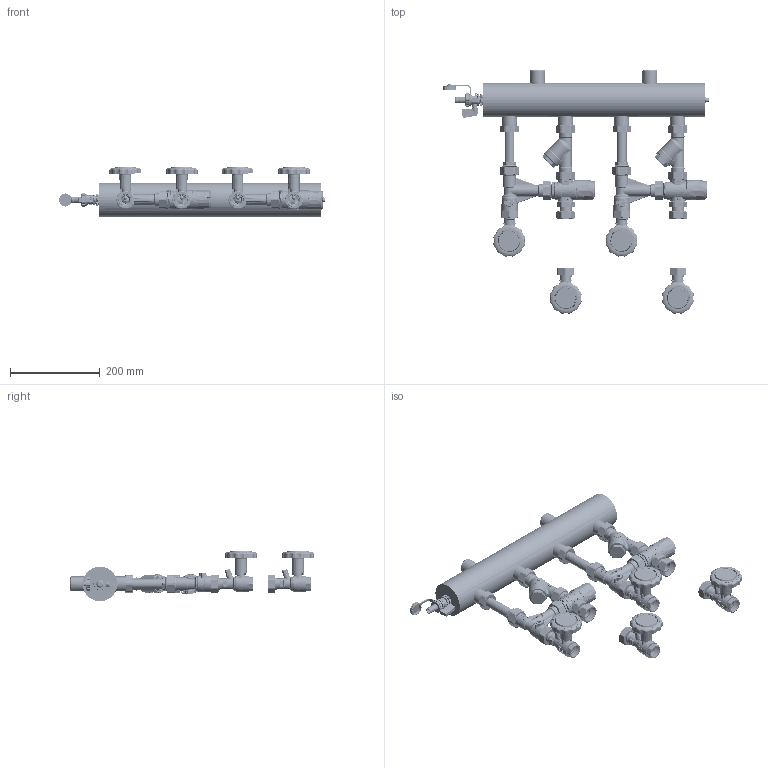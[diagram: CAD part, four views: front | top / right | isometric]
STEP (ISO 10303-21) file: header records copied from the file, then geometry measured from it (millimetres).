
FILE_DESCRIPTION (( 'STEP AP214' ), '1' );
FILE_NAME ('9091120.STEP', '2022-10-14T11:05:48', ( '' ), ( '' ), 'SwSTEP 2.0', 'SolidWorks 2022', '' );
FILE_SCHEMA (( 'AUTOMOTIVE_DESIGN' ));
Length unit declared in the file: millimetre
Products named in the file (63): 41181_1; Dado-Fissaggio-Maniglia-1870-A-31505091; T_LLE; 42407; Anello-Elastico-1460-Ř28x2-53105460_2; 70405017-1963-1DFx34F-GIALLO-MAN-NERA_ASSIEME; 90405017-1963-1DFx34F-GIALLO-MAN-NERA_ASSIEME; Tubo-22-1DFx1M; KFE_HAHN G1_2 PTFE; Corpo-1963-DN20-Lavorato-30105655; 67081_1; O-ring-2018-EPDM 70 N01C; Asta-840-12-Unificata-30505300; Guarnizione-840-34-ptfe-52705005; pokretlo na termometr; DECKEL0G304; Tubo-22; 10405027-1963-1DFx34F-Maniglia-Termometro-Nera_TERMOMETRO_1; Grano-M4x6-52110003; Misclatrice-Termostatica-ATM561-C-Lavoro-50105251_1; Sfera-300-34-Lavorata-33208005_1; MANOPOLA_1; Raccordo-840-34-Lavorato-31605312_Sabbiata; Raccordo-840-34-Lavorato-31605312_Sabbiata_1; odpowietrznik_reczny; 67082_ATM361_1; MUTTER G3_4; 1961-S-Portasonda-_X2_0158_X0_6-Lavorato-30805032; 9091120; GRIFF; Sprzeglo; Anello-Elastico-553-S-1-53105253; Sfera-300-34-Lavorata-33208005; 67079_1; GEWINDEDICHTRING G1_2; Corpo-Filtro-Lavorato_2; 21780_1; maniglia-1870-1871_Nera; Corpo-Valvola-DN20-Lavorato_1; HALTELASCHE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
Assembly tree (83 placements, depth 6):
  9091120
    Sprzeglo
    Misclatrice-Termostatica-ATM561-C-Lavoro-50105251_1  x2
      41181_1
      67082_ATM361_1
      21780_1
      67079_1
      67081_1
      MANOPOLA_1
    Assieme-Filtro1  x2
      Corpo-Filtro-Lavorato_2
      Anello-Elastico-1460-Ř28x2-53105460_2
      Dado-1460- 1-Lavorato-31505460_2
      3438-Tappo Filtro Lavorato_2
      Filtro-1410-114-53505410_2
      O-ring-4125-PE32-52905023_2
    42407
      KFE_HAHN G1_2 PTFE
        SPINDEL
        GEWINDEDICHTRING G1_2
        GEWINDERING G1_2
        GRIFF
        T_LLE
        MUTTER G3_4
        GEH_USE
        HALTELASCHE
        DECKEL G3_4
        DECKEL0G304
          FLACHDICHTUNG
    odpowietrznik_reczny
    Assieme-Valvola-Tee-Check_ASSIEME_1  x2
      Corpo-Valvola-DN20-Lavorato_1
      Sfera-300-34-Lavorata-33208005_1
      Guarnizione-840-34-ptfe-52705005_1
      Raccordo-840-34-Lavorato-31605312_Sabbiata_1
      Dado-1460- 1-Lavorato-31505460_2
      Anello-Elastico-1460-Ř28x2-53105460_2
      Check-dn25-HT-con-alette_1
    M1605404-3404-1x1-Prolunga-Montata_1  x2
      3404-Prolunga-1Fx1DF-Lavorata-L1605404_1
      Anello-Elastico-553-S-1-53105253_Per assemblaggio_1
      Dado-553-S-1-Lavorato-31505553_1
    pokretlo na termometr  x4
    10405027-1963-1DFx34F-Maniglia-Termometro-Nera_TERMOMETRO_1  x4
      70405017-1963-1DFx34F-GIALLO-MAN-NERA_ASSIEME
        90405017-1963-1DFx34F-GIALLO-MAN-NERA_ASSIEME
          20405011-1963-34-GIALLO_ASSIEME
            Corpo-1963-DN20-Lavorato-30105655
            Sfera-300-34-Lavorata-33208005
            Guarnizione-840-34-ptfe-52705005  x2
            Asta-840-12-Unificata-30505300
            O-ring-2018-EPDM 70 N01C  x2
            Raccordo-840-34-Lavorato-31605312_Sabbiata
          maniglia-1870-1871_Nera
          Dado-Fissaggio-Maniglia-1870-A-31505091
          Inserto-Maniglia-1870-52005071
          Grano-M4x6-52110003
          1961-S-Portasonda-_X2_0158_X0_6-Lavorato-30805032
        Anello-Elastico-553-S-1-53105253
        Dado-553-S-1-Lavorato-31505553
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Bounding box: 593.76 x 542.78 x 112.43 mm (x, y, z)
Volume: 3225042.6 mm3; surface area: 883403.2 mm2
Topology: 158 solids, 166 shells, 18652 faces, 45560 edges, 27830 vertices
Faces by surface type: plane 5969, cone 4655, cylinder 4029, bspline 2581, torus 998, sphere 420
Entity records: 477795 total; most frequent: CARTESIAN_POINT 250950, ORIENTED_EDGE 45073, DIRECTION 34754, EDGE_CURVE 22546, VERTEX_POINT 13662, AXIS2_PLACEMENT_3D 13471, EDGE_LOOP 9826, ADVANCED_FACE 9352
